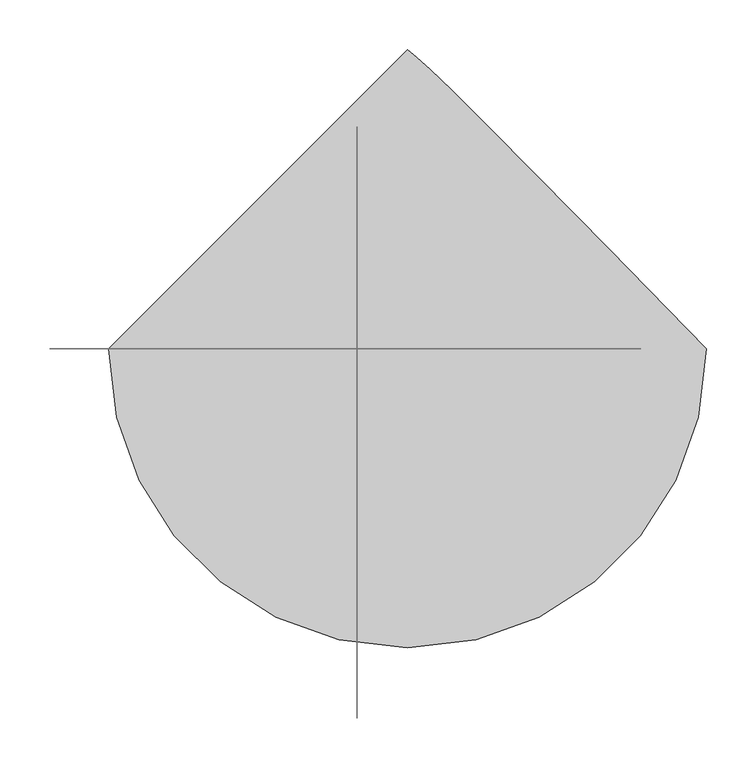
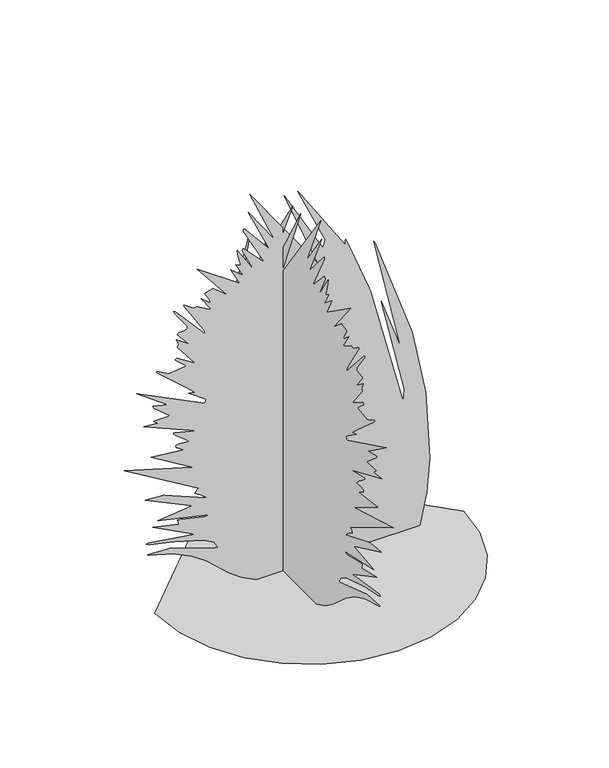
"""IFC4 building model written with IfcOpenShell, lengths in millimetres: geographic element geometry, Árvore - Caduca : Arbusto."""

from ifc_helpers import new_model, si_unit, origin, place, context, project, spatial, triangles, source, transform, mapped, element, save


def geographic_element_40c43d6f(model_context):
    return source(origin(), model_context, "Body", "Tessellation", [
        triangles([(-301.6395279, 0.0, 3.05e-05), (-293.6645242, -69.1158893, 3.05e-05), (-270.9545732, -132.5877918, 3.05e-05), (-235.3246259, -188.5963735, 3.05e-05), (-188.5963735, -235.3262973, 3.05e-05), (-132.5877918, -270.9545732, 3.05e-05), (-69.1158893, -293.6645242, 3.05e-05), (1.32e-05, -301.6395279, 3.05e-05), (69.1158893, -293.6645242, 3.05e-05), (132.5877918, -270.9545732, 3.05e-05), (188.5963735, -235.3246259, 3.05e-05), (235.3262973, -188.5963735, 3.05e-05), (270.9545732, -132.5877918, 3.05e-05), (293.6645242, -69.1158893, 3.05e-05), (301.6395279, 2.64e-05, 3.05e-05), (203.6130077, 100.5508392, 3.05e-05), (130.9416259, 174.5813859, 3.05e-05), (79.3987056, 226.5129726, 3.05e-05), (44.7589277, 260.7645883, 3.05e-05), (22.7962966, 281.7562212, 3.05e-05), (9.2852521, 293.9078596, 3.05e-05), (-3.96e-05, 301.6395279, 3.05e-05), (16.914806, 4.65e-05, 610.907333), (-48.5395881, 3.68e-05, 773.3320845), (26.6117909, 4.48e-05, 639.9990166), (31.4602822, 4.39e-05, 654.5439863), (-21.8729654, 3.68e-05, 773.3320845), (70.2480559, 4.54e-05, 630.3022974), (70.8725545, 4.51e-05, 639.6606651), (71.150885, 4.51e-05, 640.9556442), (71.4817197, 4.51e-05, 641.4456579), (79.749202, 4.62e-05, 622.2123116), (117.7271436, 5.11e-05, 524.1291633), (119.1764738, 5.13e-05, 519.44918), (184.1880488, 6.7e-05, 266.6662448), (185.9297121, 6.55e-05, 293.3328584), (140.5509413, 5.38e-05, 489.6958726), (179.3380541, 6.03e-05, 380.606056), (126.0056354, 4.61e-05, 618.1806536), (128.4297971, 4.62e-05, 615.7556562), (201.168008, 5.89e-05, 404.0843468), (227.6029678, 6.68e-05, 271.4645711), (235.6913004, 7.51e-05, 131.6346251), (229.8146424, 7.91e-05, 63.8302336), (215.7029856, 8.29e-05, 1.98e-05), (-102.3273387, 8.24e-05, 0.0225958), (-132.5512933, 8.15e-05, 15.0398762), (-156.7255899, 8.05e-05, 33.1162812), (-201.318017, 7.84e-05, 73.2183824), (-228.9313025, 7.73e-05, 92.6295204), (-264.8862481, 7.64e-05, 109.8711551), (-313.1778316, 7.56e-05, 123.7266321), (-313.6261691, 7.56e-05, 123.9709667), (-314.0861701, 7.55e-05, 124.3279671), (-314.514487, 7.55e-05, 124.7563022), (-314.8711513, 7.55e-05, 125.2153039), (-315.1144867, 7.55e-05, 125.6637958), (-315.2061599, 7.54e-05, 126.0604649), (-271.5695611, 7.56e-05, 123.6361398), (-177.0247142, 7.75e-05, 92.1210213), (-185.1147001, 7.66e-05, 105.5889946), (-205.9063452, 7.59e-05, 117.1793119), (-264.7045731, 7.48e-05, 134.8311142), (-311.6528521, 7.42e-05, 145.2852726), (-317.6294858, 7.41e-05, 147.8786008), (-316.0344887, 7.42e-05, 149.0134335), (-313.7178423, 7.42e-05, 149.4547583), (-310.8794981, 7.42e-05, 149.3917625), (-223.084639, 7.48e-05, 135.757284), (-305.5095134, 7.22e-05, 179.3930471), (-254.599594, 7.3e-05, 167.2730747), (-256.9329181, 7.24e-05, 176.2963793), (-257.0245913, 7.24e-05, 176.9697212), (-248.4879394, 7.25e-05, 175.3163883), (-205.7146781, 7.31e-05, 165.6110759), (-203.691346, 7.31e-05, 164.8482409), (-196.4180254, 7.3e-05, 167.2730747), (-295.8111955, 7.17e-05, 189.0913651), (-227.9329622, 7.12e-05, 196.3630142), (-320.0544831, 6.86e-05, 239.999613), (-283.691223, 6.88e-05, 237.5746157), (-201.2663486, 7.08e-05, 203.6363348), (-201.2463462, 7.08e-05, 204.3213402), (-202.9813421, 7.07e-05, 206.1513339), (-206.0446725, 7.05e-05, 208.7880007), (-210.0129986, 7.03e-05, 211.891336), (-218.9579832, 6.99e-05, 218.1396465), (-223.084639, 6.98e-05, 220.60632), (-222.8096376, 6.98e-05, 221.1629721), (-218.314654, 6.95e-05, 225.8729681), (-215.8113184, 6.94e-05, 227.8779692), (-361.2661028, 6.42e-05, 315.1511487), (-227.9329622, 6.65e-05, 276.3628913), (-307.9328393, 6.36e-05, 324.8478315), (-244.9029475, 6.4e-05, 317.574511), (-245.4546035, 6.4e-05, 318.2245076), (-257.1162645, 6.35e-05, 326.0111326), (-259.4479172, 6.34e-05, 327.2728289), (-259.5779238, 6.34e-05, 328.0411323), (-260.4862441, 6.33e-05, 330.7111364), (-260.5295918, 6.33e-05, 331.4361285), (-260.2262491, 6.32e-05, 331.9344629), (-259.4479172, 6.31e-05, 332.1211521), (-257.1029295, 6.32e-05, 332.9328032), (-253.4962638, 6.32e-05, 333.1644751), (-237.124625, 6.32e-05, 332.0011376), (-235.206301, 6.31e-05, 332.1211521), (-239.7262831, 6.28e-05, 336.6644794), (-261.2962419, 6.11e-05, 353.4394366), (-264.4729194, 6.09e-05, 356.4877607), (-265.5262526, 6.08e-05, 358.7594244), (-262.4879206, 6.11e-05, 358.7560816), (-220.6613131, 6.21e-05, 349.0911192), (-322.477809, 5.95e-05, 392.7260284), (-295.8111955, 5.97e-05, 390.3027025), (-300.9861885, 5.94e-05, 394.864379), (-302.8095147, 5.93e-05, 396.9927011), (-303.084516, 5.92e-05, 397.5743517), (-271.5695611, 5.92e-05, 397.5743517), (-303.084516, 5.77e-05, 424.2410016), (-305.5095134, 5.74e-05, 429.0909963), (-276.4178843, 5.78e-05, 421.8176757), (-337.0244502, 5.52e-05, 465.4542563), (-203.691346, 5.91e-05, 399.999349), (-201.2663486, 5.87e-05, 407.2726696), (-235.206301, 5.72e-05, 431.5143222), (-223.084639, 5.74e-05, 429.0909963), (-239.1362936, 5.69e-05, 443.6259739), (-295.5361941, 5.42e-05, 493.3708663), (-298.2361928, 5.33e-05, 496.9691932), (-296.2011971, 5.35e-05, 497.1958872), (-293.2961964, 5.36e-05, 496.2242168), (-273.9945584, 5.4e-05, 484.8475493), (-241.0362867, 5.38e-05, 489.4675435), (-240.0546242, 5.38e-05, 489.6958726), (-261.8729146, 5.26e-05, 509.0892019), (-261.6879149, 5.26e-05, 509.4625076), (-261.1895805, 5.25e-05, 509.9025244), (-260.4645885, 5.25e-05, 510.3625254), (-258.6812489, 5.25e-05, 511.1658557), (-257.792931, 5.25e-05, 511.4191833), (-257.0245913, 5.25e-05, 511.5141993), (-224.9563089, 5.37e-05, 490.5625348), (-223.084639, 5.38e-05, 489.6958726), (-257.0245913, 5.12e-05, 533.3324896), (-254.599594, 5.09e-05, 538.1808128), (-259.4479172, 5.01e-05, 550.3024567), (-235.206301, 5.12e-05, 533.3324896), (-257.0245913, 4.96e-05, 559.9991032), (-256.6512493, 4.95e-05, 560.6774411), (-256.2129221, 4.95e-05, 561.3207885), (-255.7512679, 4.95e-05, 561.8840899), (-255.3145939, 4.94e-05, 562.3190924), (-254.9479194, 4.94e-05, 562.5857549), (-254.6945918, 4.94e-05, 562.6341167), (-254.599594, 4.94e-05, 562.4241005), (-243.7296179, 4.94e-05, 562.9641111), (-240.4296195, 4.93e-05, 563.7607558), (-238.4312858, 4.93e-05, 565.0191092), (-237.6446151, 4.92e-05, 566.817437), (-237.9762809, 4.9e-05, 569.2374201), (-239.3362814, 4.88e-05, 572.3607396), (-261.264576, 4.78e-05, 603.4423817), (-264.0212391, 4.72e-05, 608.3807067), (-264.2962405, 4.65e-05, 610.907333), (-261.0612453, 4.67e-05, 608.3990195), (-213.0046583, 4.99e-05, 553.9324677), (-203.691346, 5.06e-05, 543.0291361), (-203.691346, 5.1e-05, 547.994131), (-210.4396623, 5.04e-05, 559.5524371), (-226.4429732, 4.93e-05, 584.7523888), (-244.0862822, 4.72e-05, 612.9073563), (-244.9029475, 4.62e-05, 615.7556562), (-242.9546107, 4.64e-05, 615.3573521), (-239.9296137, 4.66e-05, 613.7323786), (-225.5096363, 4.7e-05, 603.6357202), (-224.3429742, 4.69e-05, 603.917389), (-221.6279873, 4.69e-05, 604.2156993), (-220.3346433, 4.69e-05, 604.22402), (-219.2546584, 4.69e-05, 604.1323832), (-218.5113171, 4.69e-05, 603.9373733), (-218.2363157, 4.7e-05, 603.6357202), (-196.2796799, 4.77e-05, 590.760743), (-193.1663525, 4.78e-05, 589.3790686), (-191.5697021, 4.78e-05, 589.089079), (-210.9629951, 4.61e-05, 618.1806536), (-193.9946995, 4.7e-05, 603.6357202), (-193.5296843, 4.69e-05, 605.3006985), (-194.5246817, 4.67e-05, 608.5107133), (-196.4746898, 4.64e-05, 612.6273588), (-203.691346, 4.57e-05, 625.4539742), (-201.7930062, 4.56e-05, 626.4856699), (-187.756363, 4.54e-05, 630.1606636), (-186.7213607, 4.54e-05, 630.3022974), (-160.0545836, 4.67e-05, 608.4840434), (-218.2363157, 4.23e-05, 681.2105999), (-135.8121135, 4.58e-05, 623.0289768), (-152.7817536, 4.38e-05, 656.9689837), (-151.5820903, 4.38e-05, 656.2322554), (-128.5394651, 4.49e-05, 637.5740192), (-143.0849345, 4.33e-05, 664.2406328), (-133.3879519, 4.36e-05, 659.3923096), (-139.4361111, 4.22e-05, 683.0272768), (-140.7349417, 4.17e-05, 691.9605978), (-140.6606094, 4.16e-05, 693.3322437), (-106.7213292, 4.48e-05, 639.9990166), (-130.9636268, 4.19e-05, 688.4839205), (-128.5394651, 4.16e-05, 693.3322437), (-89.7516892, 4.41e-05, 652.1206604), (-89.7516892, 4.44e-05, 654.2972717), (-128.1632981, 3.95e-05, 727.6971519), (-128.5394651, 3.93e-05, 732.1205011), (-125.9093023, 3.95e-05, 731.1238323), (-77.6303724, 4.28e-05, 673.9389507), (-118.8424735, 3.74e-05, 763.635438), (-67.9335578, 4.18e-05, 690.9072464), (-116.4183118, 3.53e-05, 799.998698), (-51.0395854, 5.186225, 610.907333), (-51.0395854, -60.2682372, 773.3320845), (-51.0395854, 14.8831758, 639.9990166), (-51.0395854, 19.7316354, 654.5439863), (-51.0395854, -33.6016122, 773.3320845), (-51.0395854, 58.5194068, 630.3022974), (-51.0395854, 59.1440734, 639.6606651), (-51.0395854, 59.4222405, 640.9556442), (-51.0395854, 59.7530706, 641.4456579), (-51.0395854, 68.0205574, 622.2123116), (-51.0395854, 105.9984991, 524.1291633), (-51.0395854, 107.4479927, 519.44918), (-51.0395854, 172.4580598, 266.6662448), (-51.0395854, 174.2013946, 293.3328584), (-51.0395854, 128.8224602, 489.6958726), (-51.0395854, 167.6097366, 380.606056), (-51.0395854, 114.2769818, 618.1806536), (-51.0395854, 116.7011434, 615.7556562), (-51.0395854, 189.4380372, 404.0843468), (-51.0395854, 215.8746503, 271.4645711), (-51.0395854, 223.9629829, 131.6346251), (-51.0395854, 218.0863249, 63.8302336), (-51.0395854, 203.9730148, 0.0), (-51.0395854, -114.0559833, 0.022576), (-51.0395854, -144.2799379, 15.0398591), (-51.0395854, -168.454725, 33.1162812), (-51.0395854, -213.0463346, 73.2183824), (-51.0395854, -240.65962, 92.6295204), (-51.0395854, -276.6145656, 109.8711551), (-51.0395854, -324.9061492, 123.7266321), (-51.0395854, -325.3544867, 123.9709667), (-51.0395854, -325.8144876, 124.3279671), (-51.0395854, -326.2428045, 124.7563022), (-51.0395854, -326.5994688, 125.2153039), (-51.0395854, -326.8444757, 125.6636323), (-51.0395854, -326.9344774, 126.0604649), (-51.0395854, -283.2978786, 123.6361398), (-51.0395854, -188.7530318, 92.1210213), (-51.0395854, -196.8430176, 105.5889946), (-51.0395854, -217.6346446, 117.1793119), (-51.0395854, -276.4328907, 134.8311142), (-51.0395854, -323.3811696, 145.2852726), (-51.0395854, -329.3594748, 147.8786008), (-51.0395854, -327.7628062, 149.0134335), (-51.0395854, -325.4478312, 149.4547583), (-51.0395854, -322.6078156, 149.3917625), (-51.0395854, -234.8129565, 135.757284), (-51.0395854, -317.2378309, 179.3930471), (-51.0395854, -266.3279115, 167.2730747), (-51.0395854, -268.6629071, 176.2963793), (-51.0395854, -268.7529088, 176.9697212), (-51.0395854, -260.216257, 175.3163883), (-51.0395854, -217.4429957, 165.6110759), (-51.0395854, -215.4196635, 164.8482409), (-51.0395854, -208.1463429, 167.2730747), (-51.0395854, -307.5411844, 189.0913651), (-51.0395854, -239.6612798, 196.3630142), (-51.0395854, -331.7828007, 239.999613), (-51.0395854, -295.4195224, 237.5746157), (-51.0395854, -212.9946662, 203.6363348), (-51.0395854, -212.9746638, 204.3213402), (-51.0395854, -214.7096596, 206.1513339), (-51.0395854, -217.7746615, 208.7880007), (-51.0395854, -221.7413162, 211.891336), (-51.0395854, -230.6863007, 218.1396465), (-51.0395854, -234.8129565, 220.60632), (-51.0395854, -234.5379551, 221.1629721), (-51.0395854, -230.0429715, 225.8729681), (-51.0395854, -227.5413074, 227.8779692), (-51.0395854, -372.9944203, 315.1511487), (-51.0395854, -239.6612798, 276.3628913), (-51.0395854, -319.6611568, 324.8478315), (-51.0395854, -256.631265, 317.574511), (-51.0395854, -257.182921, 318.2245076), (-51.0395854, -268.8445639, 326.0111326), (-51.0395854, -271.1762348, 327.2728289), (-51.0395854, -271.3062414, 328.0411323), (-51.0395854, -272.2145617, 330.7111364), (-51.0395854, -272.2578911, 331.4361285), (-51.0395854, -271.9545666, 331.9344629), (-51.0395854, -271.1762348, 332.1211521), (-51.0395854, -268.8312471, 332.9328032), (-51.0395854, -265.2245813, 333.1644751), (-51.0395854, -248.8529426, 332.0011376), (-51.0395854, -246.9346004, 332.1211521), (-51.0395854, -251.4546006, 336.6644794), (-51.0395854, -273.0245595, 353.4394366), (-51.0395854, -276.2012187, 356.4877607), (-51.0395854, -277.254552, 358.7594244), (-51.0395854, -274.2162382, 358.7560816), (-51.0395854, -232.3896306, 349.0911192), (-51.0395854, -334.207798, 392.7260284), (-51.0395854, -307.5411844, 390.3027025), (-51.0395854, -312.7144878, 394.864379), (-51.0395854, -314.5378504, 396.9927011), (-51.0395854, -314.8128336, 397.5743517), (-51.0395854, -283.2978786, 397.5743517), (-51.0395854, -314.8128336, 424.2410016), (-51.0395854, -317.2378309, 429.0909963), (-51.0395854, -288.1462018, 421.8176757), (-51.0395854, -348.7527678, 465.4542563), (-51.0395854, -215.4196635, 399.999349), (-51.0395854, -212.9946662, 407.2726696), (-51.0395854, -246.9346004, 431.5143222), (-51.0395854, -234.8129565, 429.0909963), (-51.0395854, -250.864593, 443.6259739), (-51.0395854, -307.2644935, 493.3708663), (-51.0395854, -309.9645103, 496.9691932), (-51.0395854, -307.9294965, 497.1958872), (-51.0395854, -305.0245139, 496.2242168), (-51.0395854, -285.7228759, 484.8475493), (-51.0395854, -252.7646042, 489.4675435), (-51.0395854, -251.7829236, 489.6958726), (-51.0395854, -273.6012321, 509.0908733), (-51.0395854, -273.4162325, 509.4625076), (-51.0395854, -272.9178981, 509.9025244), (-51.0395854, -272.1945592, 510.3625254), (-51.0395854, -270.4095665, 511.1658557), (-51.0395854, -269.5229018, 511.4191833), (-51.0395854, -268.7529088, 511.5141993), (-51.0395854, -236.6862978, 490.5625348), (-51.0395854, -234.8129565, 489.6958726), (-51.0395854, -268.7529088, 533.3324896), (-51.0395854, -266.3279115, 538.1808128), (-51.0395854, -271.1762348, 550.3024567), (-51.0395854, -246.9346004, 533.3324896), (-51.0395854, -268.7529088, 559.9991032), (-51.0395854, -268.3795668, 560.6774411), (-51.0395854, -267.9412396, 561.3207885), (-51.0395854, -267.4812387, 561.8840899), (-51.0395854, -267.0445829, 562.3190924), (-51.0395854, -266.6762369, 562.5857549), (-51.0395854, -266.4229094, 562.6341167), (-51.0395854, -266.3279115, 562.4241005), (-51.0395854, -255.4595887, 562.9641111), (-51.0395854, -252.1595903, 563.7607558), (-51.0395854, -250.1596034, 565.0191092), (-51.0395854, -249.3729326, 566.817437), (-51.0395854, -249.7045984, 569.2374201), (-51.0395854, -251.064599, 572.362411), (-51.0395854, -272.9928935, 603.4423817), (-51.0395854, -275.7495566, 608.3807067), (-51.0395854, -276.0262294, 610.907333), (-51.0395854, -272.7895629, 608.3990195), (-51.0395854, -224.7346473, 553.9324677), (-51.0395854, -215.4196635, 543.0291361), (-51.0395854, -215.4196635, 547.994131), (-51.0395854, -222.1679798, 559.5524371), (-51.0395854, -238.1712908, 584.7523888), (-51.0395854, -255.816253, 612.9073563), (-51.0395854, -256.631265, 615.7556562), (-51.0395854, -254.6829283, 615.3573521), (-51.0395854, -251.6579312, 613.7323786), (-51.0395854, -237.2379539, 603.6357202), (-51.0395854, -236.0712918, 603.917389), (-51.0395854, -233.3579581, 604.2156993), (-51.0395854, -232.0646323, 604.22402), (-51.0395854, -230.9829577, 604.1323832), (-51.0395854, -230.2413061, 603.9373733), (-51.0395854, -229.9646333, 603.6357202), (-51.0395854, -208.0079975, 590.760743), (-51.0395854, -204.8946701, 589.3790686), (-51.0395854, -203.2980015, 589.089079), (-51.0395854, -222.6913127, 618.1806536), (-51.0395854, -205.7229989, 603.6357202), (-51.0395854, -205.2580018, 605.3006985), (-51.0395854, -206.2529992, 608.5107133), (-51.0395854, -208.2030074, 612.6273588), (-51.0395854, -215.4196635, 625.4539742), (-51.0395854, -213.5213237, 626.4856699), (-51.0395854, -199.4846805, 630.1606636), (-51.0395854, -198.4496783, 630.3022974), (-51.0395854, -171.7830647, 608.4840434), (-51.0395854, -229.9646333, 681.2105999), (-51.0395854, -147.5407672, 623.0289768), (-51.0395854, -164.5103981, 656.9689837), (-51.0395854, -163.3107439, 656.2322554), (-51.0395854, -140.2681097, 637.5740192), (-51.0395854, -154.8134246, 664.2406328), (-51.0395854, -145.1166055, 659.3923096), (-51.0395854, -151.1647556, 683.0272768), (-51.0395854, -152.4635862, 691.9605978), (-51.0395854, -152.3892539, 693.3322437), (-51.0395854, -118.4499738, 639.9990166), (-51.0395854, -142.6922713, 688.4839205), (-51.0395854, -140.2681097, 693.3322437), (-51.0395854, -101.4801702, 652.1206604), (-51.0395854, -101.4801702, 654.2972717), (-51.0395854, -139.8919426, 727.6971519), (-51.0395854, -140.2681097, 732.1205011), (-51.0395854, -137.6379468, 731.1238323), (-51.0395854, -89.359026, 673.9389507), (-51.0395854, -130.5711271, 763.635438), (-51.0395854, -79.6620434, 690.9072464), (-51.0395854, -128.1467929, 799.998698)], [[21, 22, 1], [20, 21, 1], [19, 20, 1], [18, 19, 1], [17, 18, 1], [17, 1, 2], [17, 2, 3], [17, 3, 4], [16, 17, 4], [16, 4, 5], [16, 5, 6], [16, 6, 7], [16, 7, 8], [16, 8, 9], [16, 9, 10], [16, 10, 11], [16, 11, 12], [15, 16, 12], [14, 15, 12], [13, 14, 12], [36, 37, 38], [23, 24, 25], [26, 27, 28], [122, 123, 124], [214, 215, 216], [216, 217, 23], [69, 70, 71], [91, 92, 93], [185, 186, 187], [195, 196, 197], [113, 114, 115], [77, 78, 79], [79, 80, 81], [79, 81, 82], [125, 126, 127], [93, 94, 95], [197, 198, 199], [38, 39, 40], [38, 40, 41], [146, 147, 148], [200, 201, 202], [204, 205, 206], [203, 204, 206], [202, 203, 206], [200, 202, 206], [164, 165, 166], [120, 121, 122], [119, 120, 122], [36, 38, 41], [36, 41, 42], [30, 31, 32], [29, 30, 32], [28, 29, 32], [77, 79, 82], [64, 65, 66], [64, 66, 67], [129, 130, 131], [197, 199, 200], [163, 164, 166], [129, 131, 132], [119, 122, 124], [64, 67, 68], [172, 173, 174], [211, 212, 213], [117, 118, 119], [116, 117, 119], [115, 116, 119], [113, 115, 119], [113, 119, 124], [110, 111, 112], [35, 36, 42], [207, 208, 209], [206, 207, 209], [72, 73, 74], [57, 58, 59], [56, 57, 59], [55, 56, 59], [54, 55, 59], [53, 54, 59], [52, 53, 59], [51, 52, 59], [51, 59, 60], [50, 51, 60], [49, 50, 60], [214, 216, 23], [25, 26, 28], [162, 163, 166], [162, 166, 167], [161, 162, 167], [160, 161, 167], [211, 213, 214], [210, 211, 214], [48, 49, 60], [172, 174, 175], [171, 172, 175], [190, 191, 192], [63, 64, 68], [63, 68, 69], [62, 63, 69], [109, 110, 112], [87, 88, 89], [129, 132, 133], [210, 214, 23], [209, 210, 23], [23, 25, 28], [108, 109, 112], [108, 112, 113], [107, 108, 113], [171, 175, 176], [44, 45, 46], [145, 146, 148], [144, 145, 148], [154, 155, 156], [135, 136, 137], [135, 137, 138], [135, 138, 139], [135, 139, 140], [135, 140, 141], [135, 141, 142], [135, 142, 143], [43, 44, 46], [171, 176, 177], [171, 177, 178], [171, 178, 179], [171, 179, 180], [171, 180, 181], [171, 181, 182], [171, 182, 183], [170, 171, 183], [170, 183, 184], [170, 184, 185], [42, 43, 46], [35, 42, 46], [35, 46, 47], [35, 47, 48], [35, 48, 60], [35, 60, 61], [34, 35, 61], [34, 61, 62], [34, 62, 69], [148, 149, 150], [148, 150, 151], [148, 151, 152], [148, 152, 153], [148, 153, 154], [148, 154, 156], [148, 156, 157], [148, 157, 158], [159, 160, 167], [148, 158, 159], [148, 159, 167], [148, 167, 168], [144, 148, 168], [128, 129, 133], [128, 133, 134], [128, 134, 135], [128, 135, 143], [128, 143, 144], [169, 170, 185], [71, 72, 74], [69, 71, 74], [69, 74, 75], [69, 75, 76], [23, 28, 32], [33, 34, 69], [197, 200, 206], [206, 209, 23], [190, 192, 193], [190, 193, 194], [190, 194, 195], [189, 190, 195], [188, 189, 195], [187, 188, 195], [185, 187, 195], [87, 89, 90], [87, 90, 91], [97, 98, 99], [127, 128, 144], [86, 87, 91], [23, 32, 33], [101, 102, 103], [100, 101, 103], [100, 103, 104], [99, 100, 104], [97, 99, 104], [97, 104, 105], [96, 97, 105], [96, 105, 106], [95, 96, 106], [95, 106, 107], [93, 95, 107], [93, 107, 113], [125, 127, 144], [197, 206, 23], [169, 185, 195], [69, 76, 77], [33, 69, 77], [33, 77, 82], [33, 82, 83], [33, 83, 84], [33, 84, 85], [33, 85, 86], [33, 86, 91], [33, 91, 93], [33, 93, 113], [33, 113, 124], [33, 124, 125], [33, 125, 144], [33, 144, 168], [23, 33, 168], [197, 23, 168], [195, 197, 168], [169, 195, 168], [231, 232, 233], [218, 219, 220], [221, 222, 223], [317, 318, 319], [409, 410, 411], [411, 412, 218], [264, 265, 266], [286, 287, 288], [380, 381, 382], [390, 391, 392], [308, 309, 310], [272, 273, 274], [274, 275, 276], [274, 276, 277], [320, 321, 322], [288, 289, 290], [392, 393, 394], [233, 234, 235], [233, 235, 236], [341, 342, 343], [395, 396, 397], [399, 400, 401], [398, 399, 401], [397, 398, 401], [395, 397, 401], [359, 360, 361], [315, 316, 317], [314, 315, 317], [231, 233, 236], [231, 236, 237], [225, 226, 227], [224, 225, 227], [223, 224, 227], [272, 274, 277], [259, 260, 261], [259, 261, 262], [324, 325, 326], [392, 394, 395], [358, 359, 361], [324, 326, 327], [314, 317, 319], [259, 262, 263], [367, 368, 369], [406, 407, 408], [312, 313, 314], [311, 312, 314], [310, 311, 314], [308, 310, 314], [308, 314, 319], [305, 306, 307], [230, 231, 237], [402, 403, 404], [401, 402, 404], [267, 268, 269], [252, 253, 254], [251, 252, 254], [250, 251, 254], [249, 250, 254], [248, 249, 254], [247, 248, 254], [246, 247, 254], [246, 254, 255], [245, 246, 255], [244, 245, 255], [409, 411, 218], [220, 221, 223], [357, 358, 361], [357, 361, 362], [356, 357, 362], [355, 356, 362], [406, 408, 409], [405, 406, 409], [243, 244, 255], [367, 369, 370], [366, 367, 370], [385, 386, 387], [258, 259, 263], [258, 263, 264], [257, 258, 264], [304, 305, 307], [282, 283, 284], [324, 327, 328], [405, 409, 218], [404, 405, 218], [218, 220, 223], [303, 304, 307], [303, 307, 308], [302, 303, 308], [366, 370, 371], [239, 240, 241], [340, 341, 343], [339, 340, 343], [349, 350, 351], [330, 331, 332], [330, 332, 333], [330, 333, 334], [330, 334, 335], [330, 335, 336], [330, 336, 337], [330, 337, 338], [238, 239, 241], [366, 371, 372], [366, 372, 373], [366, 373, 374], [366, 374, 375], [366, 375, 376], [366, 376, 377], [366, 377, 378], [365, 366, 378], [365, 378, 379], [365, 379, 380], [237, 238, 241], [230, 237, 241], [230, 241, 242], [230, 242, 243], [230, 243, 255], [230, 255, 256], [229, 230, 256], [229, 256, 257], [229, 257, 264], [343, 344, 345], [343, 345, 346], [343, 346, 347], [343, 347, 348], [343, 348, 349], [343, 349, 351], [343, 351, 352], [343, 352, 353], [354, 355, 362], [343, 353, 354], [343, 354, 362], [343, 362, 363], [339, 343, 363], [323, 324, 328], [323, 328, 329], [323, 329, 330], [323, 330, 338], [323, 338, 339], [364, 365, 380], [266, 267, 269], [264, 266, 269], [264, 269, 270], [264, 270, 271], [218, 223, 227], [228, 229, 264], [392, 395, 401], [401, 404, 218], [385, 387, 388], [385, 388, 389], [385, 389, 390], [384, 385, 390], [383, 384, 390], [382, 383, 390], [380, 382, 390], [282, 284, 285], [282, 285, 286], [292, 293, 294], [322, 323, 339], [281, 282, 286], [218, 227, 228], [296, 297, 298], [295, 296, 298], [295, 298, 299], [294, 295, 299], [292, 294, 299], [292, 299, 300], [291, 292, 300], [291, 300, 301], [290, 291, 301], [290, 301, 302], [288, 290, 302], [288, 302, 308], [320, 322, 339], [392, 401, 218], [364, 380, 390], [264, 271, 272], [228, 264, 272], [228, 272, 277], [228, 277, 278], [228, 278, 279], [228, 279, 280], [228, 280, 281], [228, 281, 286], [228, 286, 288], [228, 288, 308], [228, 308, 319], [228, 319, 320], [228, 320, 339], [228, 339, 363], [218, 228, 363], [392, 218, 363], [390, 392, 363], [364, 390, 363]], closed=False),
    ])


if __name__ == "__main__":
    model = new_model("IFC4")
    model_context = context("Model", 3, world=origin())
    ifc_project = project(units=[si_unit("LENGTHUNIT", "METRE", prefix="MILLI")], contexts=[model_context])
    site = spatial("IfcSite", under=ifc_project)
    building = spatial("IfcBuilding", under=site)
    placement = place(None, origin())
    geographic_element_shape = geographic_element_40c43d6f(model_context)
    element("IfcGeographicElement", 1, ObjectType="Árvore - Caduca : Arbusto", at=placement, inside=building, context=model_context, shape_type="MappedRepresentation", body=[
        mapped(geographic_element_shape, transform((0.0, 0.0, 0.0), x_axis=(1.0, 0.0, 0.0), y_axis=(0.0, 1.0, 0.0), z_axis=(0.0, 0.0, 1.0))),
    ])
    save(model, "model.ifc")
